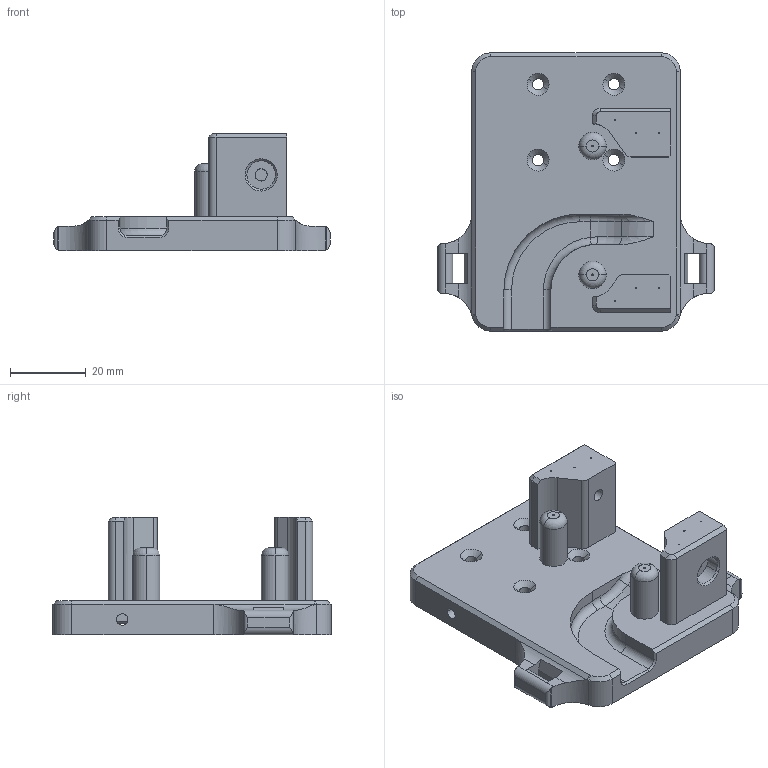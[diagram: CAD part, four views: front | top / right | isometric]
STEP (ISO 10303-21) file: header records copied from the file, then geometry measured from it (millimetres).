
FILE_DESCRIPTION(('CATIA V5 STEP Exchange'),'2;1');
FILE_NAME('C:\Users\loren\Desktop\HEMERA_MATRIX\BRACKET\BRACKET LINEAR GUIDE MGN12_Inserti.stp','2021-06-21T21:01:39+00:00',('none'),('none'),'CATIA Version 5 Release 20 SP 1 (IN-10)','CATIA V5 STEP AP214','none');
FILE_SCHEMA(('AUTOMOTIVE_DESIGN { 1 0 10303 214 1 1 1 1 }'));
Length unit declared in the file: millimetre
Products named in the file (1): Soporte_cabezal_Impresion_GL_MOD
Bounding box: 73 x 73.4 x 31 mm (x, y, z)
Volume: 40235.2 mm3; surface area: 15833.2 mm2
Topology: 2 solids, 2 shells, 696 faces, 1872 edges, 1189 vertices
Faces by surface type: bspline 354, cylinder 185, plane 112, cone 35, torus 10
Entity records: 21446 total; most frequent: CARTESIAN_POINT 8338, ORIENTED_EDGE 3744, EDGE_CURVE 1872, DIRECTION 1394, VERTEX_POINT 1189, EDGE_LOOP 741, ADVANCED_FACE 696, FACE_OUTER_BOUND 696
